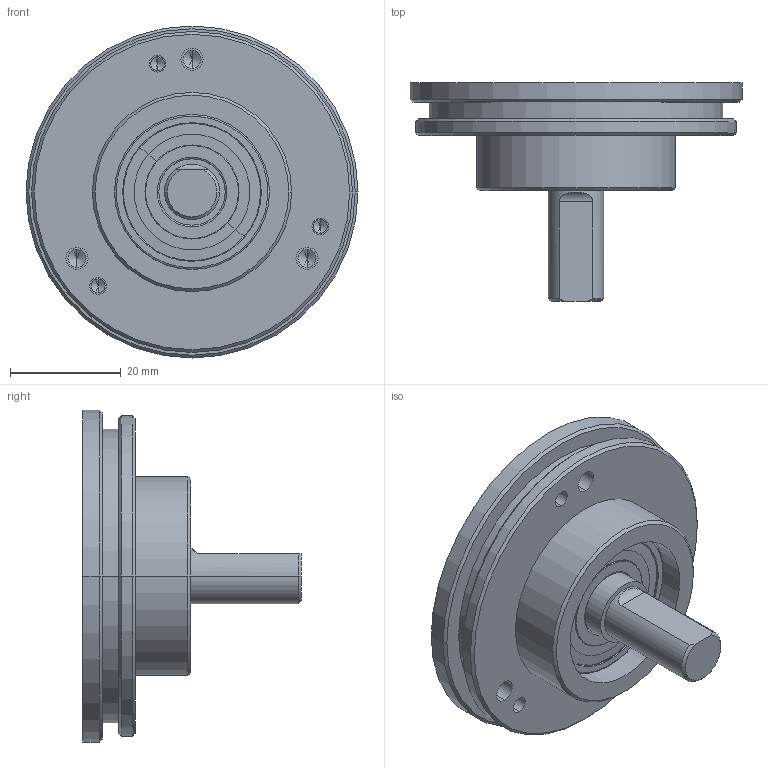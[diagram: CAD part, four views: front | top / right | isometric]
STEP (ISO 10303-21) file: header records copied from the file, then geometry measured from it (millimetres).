
FILE_DESCRIPTION (( 'STEP AP214' ), '1' );
FILE_NAME ('OCD-C10V-C5Y-N.STEP', '2013-02-26T12:54:36', ( '' ), ( '' ), 'SwSTEP 2.0', 'SolidWorks 2006104', '' );
FILE_SCHEMA (( 'AUTOMOTIVE_DESIGN' ));
Length unit declared in the file: millimetre
Products named in the file (1): OCD-C10V-C5Y-N
Bounding box: 60 x 39.5 x 60 mm (x, y, z)
Volume: 30039.5 mm3; surface area: 16164.9 mm2
Topology: 4 solids, 10 shells, 186 faces, 389 edges, 221 vertices
Faces by surface type: cylinder 73, cone 43, torus 40, plane 30
Entity records: 6949 total; most frequent: DIRECTION 984, CARTESIAN_POINT 812, ORIENTED_EDGE 734, AXIS2_PLACEMENT_3D 433, EDGE_CURVE 367, CIRCLE 246, VERTEX_POINT 221, EDGE_LOOP 214
